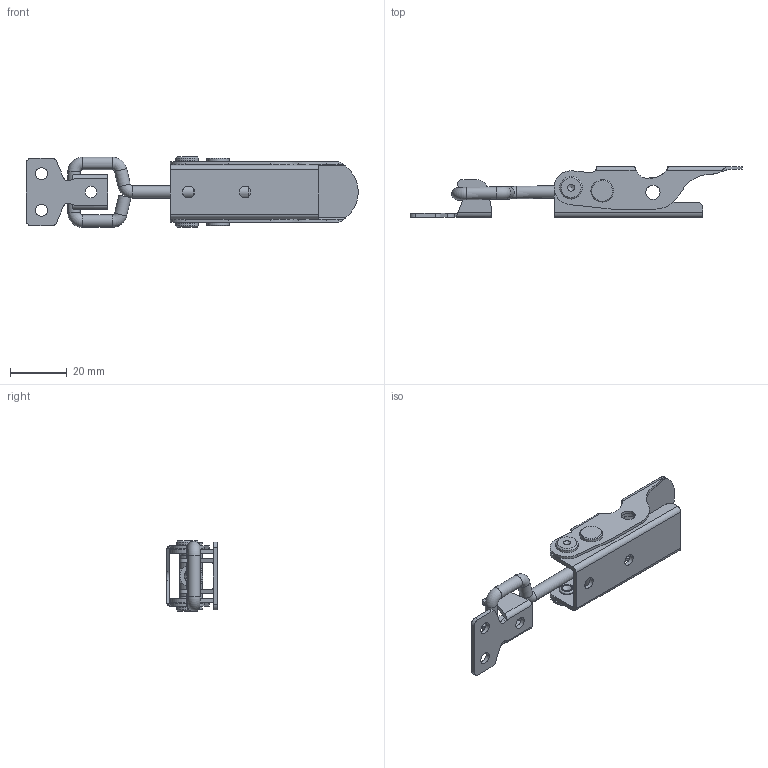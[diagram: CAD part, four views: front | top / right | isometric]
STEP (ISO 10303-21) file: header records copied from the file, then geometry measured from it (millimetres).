
FILE_DESCRIPTION(/* description */ ('STEP AP214'),/* implementation_level */ '2;1');
FILE_NAME(/* name */ 'Toggle Latch_ Stainless Steel GN 761-100-G-NI (closed-0)',/* time_stamp */ '2023-09-19T06:23:47+02:00',/* author */ ('License CC BY-ND 4.0'),/* organization */ ('CADENAS'),/* preprocessor_version */ 'ST-DEVELOPER v19.3',/* originating_system */ 'PARTsolutions',/* authorisation */ ' ');
FILE_SCHEMA (('AUTOMOTIVE_DESIGN {1 0 10303 214 3 1 1}'));
Length unit declared in the file: millimetre
Products named in the file (6): Toggle Latch, Stainless Steel GN 761-100-G-NI (closed-0); Toggle Latch GN 761-100-G-NI-3; Toggle Latch GN 761-100-G-NI (0)-6; Toggle Latch GN 761-100-G-NI (0-0)-4; Toggle Latch GN 761-100-G-NI (0)-2; Toggle Latch GN 761-100-G-NI-1
Assembly tree (5 placements, depth 2):
  Toggle Latch, Stainless Steel GN 761-100-G-NI (closed-0)
    Toggle Latch GN 761-100-G-NI-3
    Toggle Latch GN 761-100-G-NI (0)-6
    Toggle Latch GN 761-100-G-NI (0-0)-4
    Toggle Latch GN 761-100-G-NI (0)-2
    Toggle Latch GN 761-100-G-NI-1
Bounding box: 117.46 x 18 x 25 mm (x, y, z)
Volume: 8527.6 mm3; surface area: 12253 mm2
Topology: 5 solids, 5 shells, 241 faces, 649 edges, 425 vertices
Faces by surface type: cylinder 104, plane 103, cone 25, torus 9
Full cylindrical faces by diameter (mm): 1 x2, 4.134 x2, 4.2 x7, 4.25 x2, 4.4 x6, 5 x3, 5.5 x4, 8 x5
Entity records: 7436 total; most frequent: CARTESIAN_POINT 1421, DIRECTION 1247, ORIENTED_EDGE 1138, EDGE_CURVE 569, AXIS2_PLACEMENT_3D 479, VERTEX_POINT 405, FACE_BOUND 342, EDGE_LOOP 338
